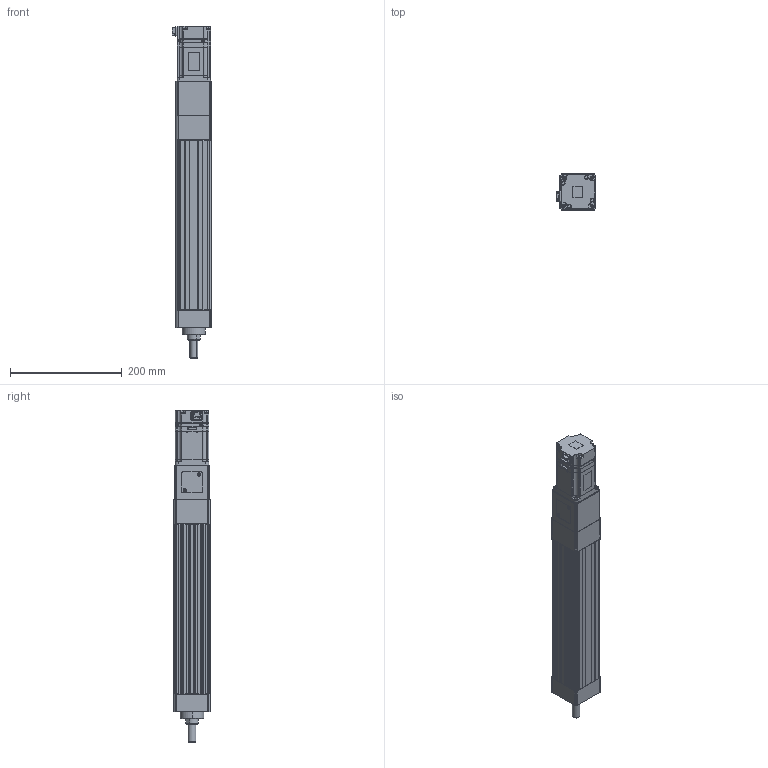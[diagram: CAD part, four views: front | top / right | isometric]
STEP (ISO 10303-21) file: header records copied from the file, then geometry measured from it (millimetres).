
FILE_DESCRIPTION (( 'STEP AP203' ), '1' );
FILE_NAME ('ANS065R-S200-05(10)(20)-W40-M.STEP', '2019-03-02T12:18:22', ( 'user' ), ( '' ), 'SwSTEP 2.0', 'SolidWorks 2013', '' );
FILE_SCHEMA (( 'CONFIG_CONTROL_DESIGN' ));
Length unit declared in the file: millimetre
Products named in the file (4): ANS065R S200 VER2; sgmjv_04a_a21; ANS065 ROD ST200-M; ANS065R-S200-05(10)(20)-W40-M
Assembly tree (3 placements, depth 2):
  ANS065R-S200-05(10)(20)-W40-M
    ANS065R S200 VER2
    sgmjv_04a_a21
    ANS065 ROD ST200-M
Bounding box: 71.3 x 65 x 594.6 mm (x, y, z)
Volume: 1458241.7 mm3; surface area: 313531.2 mm2
Topology: 3 solids, 7 shells, 1080 faces, 2853 edges, 1837 vertices
Faces by surface type: plane 636, cylinder 358, cone 86
Entity records: 33539 total; most frequent: CARTESIAN_POINT 5970, DIRECTION 5703, ORIENTED_EDGE 5658, EDGE_CURVE 2829, LINE 1999, VECTOR 1999, AXIS2_PLACEMENT_3D 1852, VERTEX_POINT 1837
